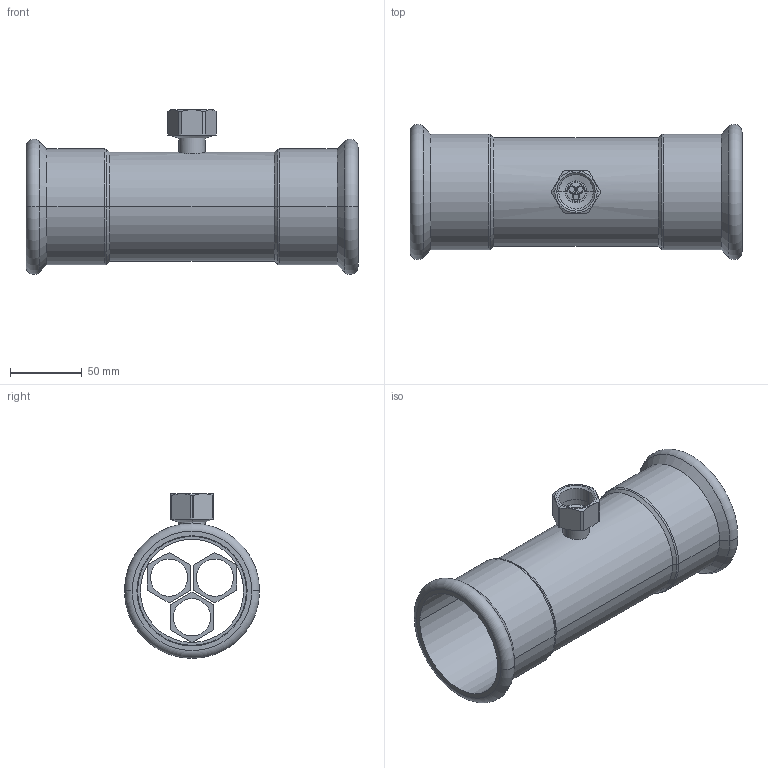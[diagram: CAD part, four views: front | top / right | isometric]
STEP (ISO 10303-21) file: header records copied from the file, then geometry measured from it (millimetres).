
FILE_DESCRIPTION(('OneSpaceDesigner STEP Export'),'2;1');
FILE_NAME('R2718 76xRp3-4x76.stp','2010-06-10T12:41:05',(''),(''),'OneSpace Designer STEP processor for AP214 (Solid Model)','OneSpace Modeling 15.00A 14-Mar-2007 (C) CoCreate Software GmbH','');
FILE_SCHEMA(('AUTOMOTIVE_DESIGN { 1 0 10303 214 1 1 1 1 }'));
Length unit declared in the file: millimetre
Products named in the file (2): R2718_76xRp3-4x76
Assembly tree (1 placements, depth 2):
  R2718_76xRp3-4x76
    R2718_76xRp3-4x76
Bounding box: 232 x 94.48 x 115.24 mm (x, y, z)
Volume: 162260.7 mm3; surface area: 132110.2 mm2
Topology: 1 solids, 1 shells, 186 faces, 473 edges, 304 vertices
Faces by surface type: plane 94, cylinder 64, cone 20, torus 8
Entity records: 6555 total; most frequent: CARTESIAN_POINT 2464, ORIENTED_EDGE 946, DIRECTION 689, EDGE_CURVE 473, VERTEX_POINT 304, VECTOR 287, LINE 287, EDGE_LOOP 221
